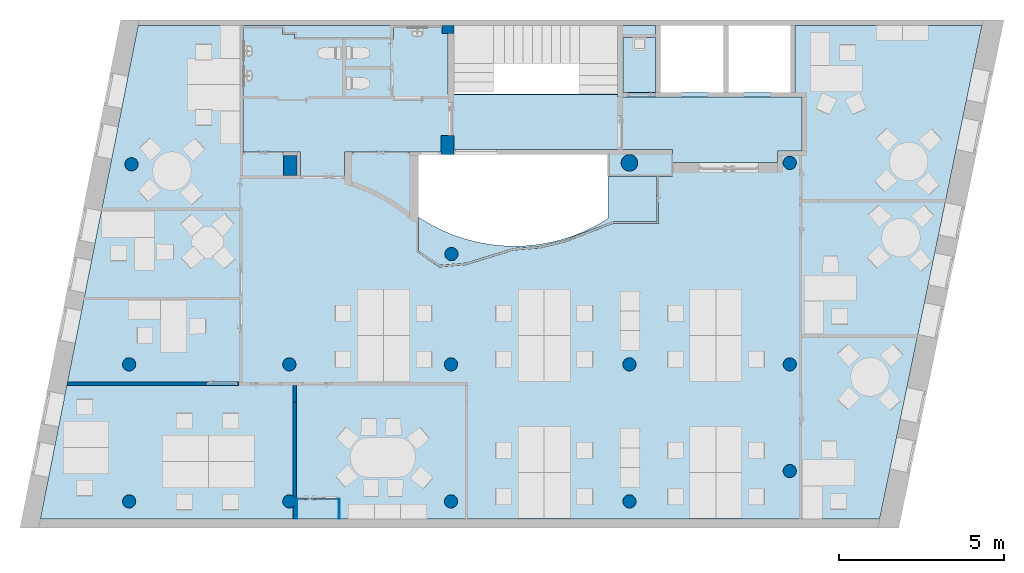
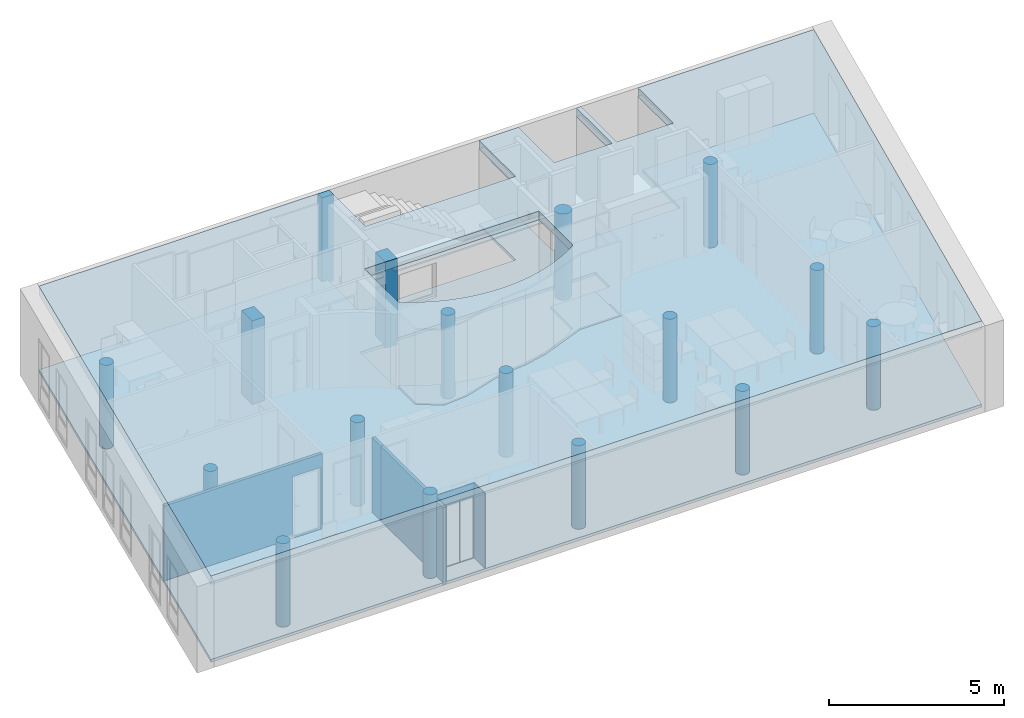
"""IFC4 building model written with IfcOpenShell, lengths in metres."""

from ifc_helpers import new_model, entity, si_unit, converted_unit, derived_unit, frame, frame_2d, origin, origin_with_axes, place, context, subcontext, project, spatial, polyline, rectangle, circle, outline, extrude, material, layer, layer_set, layer_usage, element, save


model = new_model("IFC4")

# Units and contexts
model_context = context("Model", 3, precision=1e-05, world=origin())
body_context = subcontext(model_context, "Body", "Model", "MODEL_VIEW")
ifc_project = project(units=[si_unit("LENGTHUNIT", "METRE"), si_unit("AREAUNIT", "SQUARE_METRE"), si_unit("VOLUMEUNIT", "CUBIC_METRE"), si_unit("MASSUNIT", "GRAM", prefix="KILO"), converted_unit("PLANEANGLEUNIT", "DEGREE", entity("IfcPlaneAngleMeasure", 0.0174532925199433), si_unit("PLANEANGLEUNIT", "RADIAN"), dimensions=[0, 0, 0, 0, 0, 0, 0]), derived_unit("THERMALTRANSMITTANCEUNIT", [(si_unit("POWERUNIT", "WATT"), 1), (si_unit("THERMODYNAMICTEMPERATUREUNIT", "KELVIN"), -1), (si_unit("LENGTHUNIT", "METRE"), -2)]), derived_unit("VOLUMETRICFLOWRATEUNIT", [(si_unit("LENGTHUNIT", "METRE"), 3), (converted_unit("TIMEUNIT", "hour", entity("IfcTimeMeasure", 3600.0), si_unit("TIMEUNIT", "SECOND"), dimensions=[0, 0, 1, 0, 0, 0, 0]), -1), (si_unit("LENGTHUNIT", "METRE"), -1)])], contexts=[model_context])

# Building, storeys
building_placement = place(None, origin())
building = spatial("IfcBuilding", under=ifc_project, at=building_placement, Name="HABITATGE PLURIFAMILIAR", CompositionType="ELEMENT")
storey_1_placement = place(building_placement, frame((0.0, 0.0, 12.27)))
storey_1 = spatial("IfcBuildingStorey", under=building, at=storey_1_placement, Name="PLANTA TERCERA", CompositionType="ELEMENT", Elevation=12.27)
storey_2_placement = place(storey_1_placement, frame((0.0, 0.0, 9.26)))
storey_2 = spatial("IfcBuildingStorey", under=storey_1, at=storey_2_placement, Name="NOU", CompositionType="PARTIAL")

# Columns
for number, where, name in (
    (1, (400.786984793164, 13.4494598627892, -9.36), "Pilar P3"),
    (2, (400.786984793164, 17.5994598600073, -9.36), "Pilar P3"),
    (3, (405.636984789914, 13.4494598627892, -9.36), "Pilar P3"),
    (4, (410.533725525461, 13.4494598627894, -9.36), "Pilar P3"),
):
    element("IfcColumn", number, at=place(storey_2_placement, frame(where)), inside=storey_2, Name=name, PredefinedType="COLUMN", context=body_context, shape_type="SweptSolid", body=[
        extrude(circle(Radius=0.200000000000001, at=frame_2d((0.200000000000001, 0.200000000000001), x_axis=(1.0, 0.0))), origin_with_axes(), (0.0, 0.0, 1.0), 3.01),
    ])
column_1_placement = place(storey_2_placement, frame((415.88698478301, 23.6494598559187, -9.36)))
element("IfcColumn", 5, at=column_1_placement, inside=storey_2, Name="Pilar P3", PredefinedType="COLUMN", context=body_context, shape_type="SweptSolid", body=[
    extrude(circle(Radius=0.25, at=frame_2d((0.25, 0.25), x_axis=(1.0, 0.0))), origin_with_axes(), (0.0, 0.0, 1.0), 3.01),
])
for number, where, name in (
    (6, (410.546984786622, 20.9394598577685, -9.36), "Pilar P3"),
    (7, (400.856984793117, 23.6594598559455, -9.36), "Pilar P3"),
):
    element("IfcColumn", number, at=place(storey_2_placement, frame(where)), inside=storey_2, Name=name, PredefinedType="COLUMN", context=body_context, shape_type="SweptSolid", body=[
        extrude(circle(Radius=0.200000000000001, at=frame_2d((0.200000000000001, 0.200000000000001), x_axis=(1.0, 0.0))), origin_with_axes(), (0.0, 0.0, 1.0), 3.01),
    ])
column_2_placement = place(storey_2_placement, frame((410.452985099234, 27.8194598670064, -9.36)))
element("IfcColumn", 8, at=column_2_placement, inside=storey_2, Name="Pilar P3", PredefinedType="COLUMN", context=body_context, shape_type="SweptSolid", body=[
    extrude(rectangle(XDim=0.37399968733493, YDim=0.248788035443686, at=frame_2d((0.186999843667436, 0.124394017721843), x_axis=(1.0, 0.0))), origin_with_axes(), (0.0, 0.0, 1.0), 3.01),
])
column_3_placement = place(storey_2_placement, frame((410.426984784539, 24.1594598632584, -9.36)))
element("IfcColumn", 9, at=column_3_placement, inside=storey_2, Name="Pilar P3", PredefinedType="COLUMN", context=body_context, shape_type="SweptSolid", body=[
    extrude(rectangle(XDim=0.400000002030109, YDim=0.569999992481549, at=frame_2d((0.200000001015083, 0.284999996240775), x_axis=(1.0, 0.0))), origin_with_axes(), (0.0, 0.0, 1.0), 3.01),
])
column_4_placement = place(storey_2_placement, frame((405.666984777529, 23.5194598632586, -9.36)))
element("IfcColumn", 10, at=column_4_placement, inside=storey_2, Name="Pilar P3", PredefinedType="COLUMN", context=body_context, shape_type="SweptSolid", body=[
    extrude(rectangle(XDim=0.410000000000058, YDim=0.609999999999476, at=frame_2d((0.205, 0.304999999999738), x_axis=(1.0, 0.0))), origin_with_axes(), (0.0, 0.0, 1.0), 3.01),
])
for number, where, name in (
    (11, (415.93698478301, 13.4494598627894, -9.36), "Pilar P3"),
    (12, (420.791984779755, 14.3694598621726, -9.36), "Pilar P3"),
    (13, (410.533725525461, 17.5994598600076, -9.36), "Pilar P3"),
    (14, (420.791984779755, 23.6994598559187, -9.36), "Pilar P3"),
    (15, (420.791984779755, 17.5994598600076, -9.36), "Pilar P3"),
    (16, (415.93698478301, 17.5994598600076, -9.36), "Pilar P3"),
    (17, (405.636984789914, 17.5994598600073, -9.36), "Pilar P3"),
):
    element("IfcColumn", number, at=place(storey_2_placement, frame(where)), inside=storey_2, Name=name, PredefinedType="COLUMN", context=body_context, shape_type="SweptSolid", body=[
        extrude(circle(Radius=0.200000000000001, at=frame_2d((0.200000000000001, 0.200000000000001), x_axis=(1.0, 0.0))), origin_with_axes(), (0.0, 0.0, 1.0), 3.01),
    ])

# Slabs
slab_1_placement = place(storey_2_placement, frame((398.295231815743, 13.1106121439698, -6.65)))
element("IfcSlab", 18, at=slab_1_placement, inside=storey_2, Name="Forjat P3", PredefinedType="FLOOR", context=body_context, shape_type="SweptSolid", body=[
    extrude(outline(polyline([(2.96349409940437, 14.9576357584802), (0.0, 0.0), (25.4182049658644, 0.0), (28.5180173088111, 14.9576357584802), (22.7117529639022, 14.9576357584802), (22.7117529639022, 12.9288477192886), (20.8417529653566, 12.9288477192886), (20.8417529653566, 14.9676357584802), (20.6917529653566, 14.9676357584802), (20.6917529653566, 12.9288477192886), (18.7817529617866, 12.9288477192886), (18.7817529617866, 14.9576357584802), (17.4817529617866, 14.9576357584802), (17.4817529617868, 12.8815425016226), (12.5317529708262, 12.878847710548), (12.5317529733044, 14.9578570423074), (2.96349409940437, 14.9576357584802)]), holes=[polyline([(17.1917529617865, 11.0488477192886), (17.1917529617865, 9.1032116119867), (17.1242303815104, 9.06041504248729), (17.0560619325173, 9.01865492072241), (16.9872635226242, 8.97794099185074), (16.917851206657, 8.93828275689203), (16.8478411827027, 8.89968947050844), (16.7772497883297, 8.86217013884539), (16.7060934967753, 8.82573351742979), (16.6343889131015, 8.79038810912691), (16.5621527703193, 8.7561421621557), (16.4894019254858, 8.72300366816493), (16.4161533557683, 8.69098036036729), (16.3424241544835, 8.66007971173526), (16.2682315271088, 8.6303089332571), (16.1935927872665, 8.60167497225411), (16.1185253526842, 8.57418451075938), (16.0430467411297, 8.54784396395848), (15.9671745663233, 8.52265947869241), (15.8909265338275, 8.49863693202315), (15.8143204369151, 8.4757819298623), (15.7373741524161, 8.45409980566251), (15.6601056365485, 8.43359561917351), (15.582532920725, 8.41427415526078), (15.504674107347, 8.39613992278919), (15.4265473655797, 8.37919715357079), (15.3481709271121, 8.3634498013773), (15.2695630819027, 8.34890154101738), (15.1907421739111, 8.33555576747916), (15.1117265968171, 8.3234155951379), (15.0325347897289, 8.31248385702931), (14.9531852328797, 8.30276310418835), (14.8736964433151, 8.29425560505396), (14.7940869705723, 8.28696334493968), (14.714375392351, 8.28088802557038), (14.6345803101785, 8.27603106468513), (14.5547203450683, 8.27239359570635), (14.4748141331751, 8.26997646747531), (14.3948803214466, 8.26878024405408), (14.3149375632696, 8.26880520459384), (14.23500451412, 8.27005134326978), (14.1550998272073, 8.27251836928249), (14.0752421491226, 8.27620570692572), (13.9954501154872, 8.28111249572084), (13.9157423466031, 8.28723759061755), (13.8361374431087, 8.29457956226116), (13.7566539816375, 8.3031366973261), (13.6773105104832, 8.31290699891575), (13.5981255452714, 8.32388818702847), (13.5191175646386, 8.33607769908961), (13.4403050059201, 8.34947269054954), (13.3617062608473, 8.36407003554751), (13.283339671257, 8.37986632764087), (13.2052235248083, 8.39685788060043), (13.1273760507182, 8.41504072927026), (13.0498154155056, 8.4344106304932), (12.9725597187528, 8.45496306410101), (12.8956269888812, 8.47669323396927), (12.8190351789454, 8.49959606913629), (12.7428021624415, 8.52366622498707), (12.6669457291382, 8.54889808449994), (12.5914835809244, 8.5752857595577), (12.516433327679, 8.60282309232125), (12.4418124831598, 8.63150365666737), (12.3676384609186, 8.6613207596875), (12.2939285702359, 8.69226744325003), (12.2207000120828, 8.72433648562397), (12.1479698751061, 8.75752040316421), (12.0757551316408, 8.79181145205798), (12.00407263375, 8.82720163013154), (11.932939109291, 8.86368267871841), (11.8623711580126, 8.9012460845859), (11.7923852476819, 8.93988308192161), (11.7229977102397, 8.97958465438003), (11.6542247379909, 9.02034153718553), (11.5860823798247, 9.06214421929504), (11.5185865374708, 9.10498294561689), (11.4517529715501, 9.14884771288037), (11.4517529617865, 11.0488477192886), (17.1917529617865, 11.0488477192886)])]), origin_with_axes(), (0.0, 0.0, 1.0), 0.3),
])
slab_2_placement = place(storey_2_placement, frame((404.436984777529, 23.4344598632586, -6.95)))
element("IfcSlab", 19, at=slab_2_placement, inside=storey_2, Name="Fals sostre P3", PredefinedType="FLOOR", context=body_context, shape_type="SweptSolid", body=[
    extrude(outline(polyline([(0.0, 4.54499999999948), (0.0, 0.794999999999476), (1.73999999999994, 0.794999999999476), (1.73999999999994, 0.0), (3.07000000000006, 0.0), (3.07000000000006, 0.794999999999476), (5.99000000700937, 0.794999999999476), (5.99000000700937, 1.29499999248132), (6.39000000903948, 1.29499999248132), (6.39000000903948, 0.874999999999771), (13.0099999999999, 0.874999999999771), (13.0099999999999, 0.475000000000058), (16.1813995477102, 0.475000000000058), (16.1813995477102, 0.824999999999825), (16.9199999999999, 0.824999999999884), (16.9199999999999, 2.45499999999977), (11.5100000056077, 2.45499999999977), (11.3394127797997, 2.45498274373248), (11.3399999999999, 2.53499999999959), (6.21000000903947, 2.53499999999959), (6.21000000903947, 4.38500000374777), (6.01600032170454, 4.38500000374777), (6.01600032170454, 4.56499999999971), (4.55000000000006, 4.56499999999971), (4.55000000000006, 4.21499999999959), (1.55999999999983, 4.21499999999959), (1.55999999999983, 4.37499999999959), (1.19999999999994, 4.37499999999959), (1.19999999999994, 4.54499999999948), (0.0, 4.54499999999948)])), origin_with_axes(), (0.0, 0.0, 1.0), 0.05),
    extrude(rectangle(XDim=0.979999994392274, YDim=1.65999999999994, at=frame_2d((0.489999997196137, 0.829999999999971), x_axis=(1.0, 0.0))), frame((11.5100000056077, 2.60499999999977, 0.0), z_axis=(0.0, 0.0, 1.0), x_axis=(1.0, 0.0, 0.0)), (0.0, 0.0, 1.0), 0.05),
])
slab_3_placement = place(storey_2_placement, frame((398.295231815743, 13.1106121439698, -9.36)))
element("IfcSlab", 20, at=slab_3_placement, inside=storey_2, Name="Paviment P3", PredefinedType="FLOOR", context=body_context, shape_type="SweptSolid", body=[
    extrude(outline(polyline([(0.0, 0.0), (25.4182049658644, 0.0), (28.5180173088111, 14.9576357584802), (22.8617529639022, 14.9576357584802), (22.8617529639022, 12.7788477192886), (18.6317529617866, 12.7788477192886), (18.6317529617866, 14.9576357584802), (17.4817529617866, 14.9576357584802), (17.4817529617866, 12.8815393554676), (12.3517529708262, 12.8788477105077), (12.3536132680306, 14.9576710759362), (2.96349409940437, 14.9576357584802), (0.0, 0.0)]), holes=[polyline([(19.1517529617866, 11.1988477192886), (19.1517529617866, 10.3788477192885), (18.6717529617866, 10.3788477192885), (18.6717529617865, 9.61368156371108), (18.7217529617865, 9.61368156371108), (18.7217529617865, 8.95884771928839), (17.3517529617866, 8.95884771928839), (15.8781909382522, 8.38884771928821), (15.1089705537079, 8.20884771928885), (14.3223575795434, 8.1491918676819), (12.9081705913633, 7.70884771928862), (12.0911638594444, 7.63884771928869), (11.4017529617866, 8.09901361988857), (11.4017529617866, 8.99901361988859), (11.3517529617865, 9.15186400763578), (11.3517529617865, 11.1188477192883), (12.1317529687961, 11.1188477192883), (12.1317529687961, 11.6188477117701), (12.5317529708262, 11.6188477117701), (12.5317529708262, 11.1988477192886), (19.1517529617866, 11.1988477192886)])]), origin_with_axes(), (0.0, 0.0, 1.0), 0.1),
])
slab_4_placement = place(storey_2_placement, frame((409.746984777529, 20.8007728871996, -9.36)))
element("IfcSlab", 21, at=slab_4_placement, inside=storey_2, Name="Paviment P3", PredefinedType="FLOOR", context=body_context, shape_type="SweptSolid", body=[
    extrude(outline(polyline([(0.660044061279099, 1.08436728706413), (0.323228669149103, 1.25954828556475), (0.00245939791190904, 1.4571717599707), (0.0, 1.30885287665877), (0.0, 0.435594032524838), (0.652597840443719, 0.0), (1.44673818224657, 0.0680408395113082), (2.86004820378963, 0.508111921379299), (3.64957753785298, 0.56824987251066), (4.41148500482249, 0.746538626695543), (5.14324609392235, 1.03532083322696), (5.88211983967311, 1.3153809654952), (5.89066652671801, 1.31868697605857), (7.22000000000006, 1.31868697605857), (7.22000000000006, 2.68868697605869), (5.74, 2.68868697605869), (5.74, 1.41305086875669), (5.41364587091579, 1.21907671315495), (5.07408766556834, 1.04927325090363), (4.72311247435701, 0.904534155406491), (4.36256747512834, 0.785621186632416), (3.99435021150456, 0.693160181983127), (3.62039860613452, 0.627637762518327), (3.24268076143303, 0.589398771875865), (2.86318460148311, 0.578644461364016), (2.48390740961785, 0.595431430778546), (2.10684531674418, 0.63967133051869), (1.73398279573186, 0.711131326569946), (1.36728221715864, 0.809435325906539), (1.00867352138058, 0.934065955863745), (0.660044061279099, 1.08436728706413)]), holes=[polyline([(0.818277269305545, 0.253948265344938), (0.813293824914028, 0.267640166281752), (0.812061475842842, 0.270282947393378), (0.81130676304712, 0.273099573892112), (0.806323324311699, 0.286791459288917), (0.803793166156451, 0.301140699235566), (0.803038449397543, 0.303957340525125), (0.802784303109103, 0.306862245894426), (0.800254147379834, 0.321211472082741), (0.800254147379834, 0.356162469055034), (0.80278430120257, 0.370511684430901), (0.803038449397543, 0.373416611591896), (0.803793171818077, 0.376233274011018), (0.806323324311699, 0.390582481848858), (0.811306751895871, 0.404274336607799), (0.812061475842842, 0.407091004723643), (0.813293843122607, 0.409733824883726), (0.818277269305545, 0.423425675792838), (0.825562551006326, 0.436044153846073), (0.826794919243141, 0.43868697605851), (0.82846748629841, 0.441075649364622), (0.835752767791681, 0.453694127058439), (0.845118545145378, 0.464855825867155), (0.846791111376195, 0.46724449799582), (0.848853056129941, 0.469306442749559), (0.858218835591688, 0.480468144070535), (0.869380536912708, 0.489833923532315), (0.871442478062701, 0.491895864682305), (0.873831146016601, 0.493568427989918), (0.884992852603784, 0.502934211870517), (0.897611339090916, 0.510219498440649), (0.9, 0.511892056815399), (0.90264280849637, 0.513124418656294), (0.915261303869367, 0.520409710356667), (0.928953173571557, 0.525393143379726), (0.931595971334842, 0.52662550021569), (0.934412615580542, 0.527380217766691), (0.948104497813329, 0.532363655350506), (0.962453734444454, 0.534893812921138), (0.965270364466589, 0.535648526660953), (0.968175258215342, 0.535902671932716), (0.982524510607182, 0.538432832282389), (1.01747550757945, 0.538432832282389), (1.03182477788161, 0.535902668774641), (1.03472963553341, 0.535648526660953), (1.0375462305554, 0.534893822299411), (1.05189552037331, 0.532363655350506), (1.06558745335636, 0.527380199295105), (1.06840402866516, 0.52662550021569), (1.0710467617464, 0.525393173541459), (1.08473871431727, 0.520409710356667), (1.09735728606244, 0.513124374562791), (1.1, 0.511892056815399), (1.10238857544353, 0.510219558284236), (1.11500716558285, 0.502934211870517), (1.12616896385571, 0.493568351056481), (1.1285575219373, 0.491895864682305), (1.1306193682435, 0.489834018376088), (1.14178118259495, 0.480468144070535), (1.15114705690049, 0.469306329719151), (1.15320888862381, 0.46724449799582), (1.15488136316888, 0.4648559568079), (1.16424725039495, 0.453694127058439), (1.17153261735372, 0.441075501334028), (1.17320508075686, 0.43868697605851), (1.1744373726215, 0.436044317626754), (1.18172274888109, 0.423425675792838), (1.18670623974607, 0.409733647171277), (1.18793852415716, 0.407091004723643), (1.18869319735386, 0.404274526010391), (1.19367669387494, 0.390582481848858), (1.19620688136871, 0.376233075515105), (1.19696155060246, 0.373416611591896), (1.19721568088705, 0.370511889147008), (1.1997458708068, 0.356162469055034), (1.1997458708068, 0.321211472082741), (1.19721567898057, 0.306862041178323), (1.19696155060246, 0.303957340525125), (1.19620688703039, 0.301140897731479), (1.19367669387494, 0.286791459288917), (1.18869318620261, 0.273099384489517), (1.18793852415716, 0.270282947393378), (1.18670625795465, 0.267640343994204), (1.18172274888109, 0.253948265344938), (1.17443734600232, 0.241329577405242), (1.17320508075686, 0.23868697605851), (1.17153265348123, 0.236298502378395), (1.16424725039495, 0.223679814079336), (1.15488131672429, 0.212517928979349), (1.15320888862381, 0.210129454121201), (1.1511471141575, 0.20806767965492), (1.14178118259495, 0.19690579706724), (1.13061930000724, 0.187539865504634), (1.1285575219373, 0.185478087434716), (1.12616904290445, 0.183805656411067), (1.11500716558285, 0.174439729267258), (1.10238848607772, 0.167154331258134), (1.1, 0.165481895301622), (1.09735738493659, 0.164249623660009), (1.08473871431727, 0.156964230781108), (1.07104665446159, 0.15198072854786), (1.06840402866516, 0.150748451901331), (1.06558756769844, 0.149993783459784), (1.05189552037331, 0.14501028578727), (1.03754611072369, 0.142480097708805), (1.03472963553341, 0.141725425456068), (1.03182490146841, 0.141471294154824), (1.01747550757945, 0.138941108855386), (0.982524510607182, 0.138941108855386), (0.968175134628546, 0.141471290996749), (0.965270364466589, 0.141725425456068), (0.962453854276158, 0.142480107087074), (0.948104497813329, 0.14501028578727), (0.934412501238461, 0.149993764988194), (0.931595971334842, 0.150748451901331), (0.928953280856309, 0.151980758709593), (0.915261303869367, 0.156964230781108), (0.902642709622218, 0.164249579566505), (0.9, 0.165481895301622), (0.897611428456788, 0.167154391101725), (0.884992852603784, 0.174439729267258), (0.873831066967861, 0.18380557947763), (0.871442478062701, 0.185478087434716), (0.869380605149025, 0.187539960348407), (0.858218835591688, 0.19690579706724), (0.84885299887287, 0.208067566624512), (0.846791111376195, 0.210129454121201), (0.845118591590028, 0.212518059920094), (0.835752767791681, 0.223679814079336), (0.828467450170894, 0.2362983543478), (0.826794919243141, 0.23868697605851), (0.825562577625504, 0.24132974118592), (0.818277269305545, 0.253948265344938)])]), origin_with_axes(), (0.0, 0.0, 1.0), 0.1),
])

# Wall, opening
ifc_material_1 = material()
ifc_layer_1 = layer(ifc_material_1, 0.1)
ifc_layer_set_1 = layer_set([ifc_layer_1])
ifc_layer_usage_1 = layer_usage(ifc_layer_set_1, "AXIS2", "POSITIVE", 0.0)
wall_1_placement = place(storey_2_placement, frame((399.098756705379, 17.1662411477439, -9.36)))
wall_1 = element("IfcWall", 22, at=wall_1_placement, inside=storey_2, material=ifc_layer_usage_1, Name="Evans P3", context=body_context, shape_type="SweptSolid", body=[
    extrude(outline(polyline([(0.0, 0.0), (5.21822807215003, 0.0), (5.21822807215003, 0.1), (0.019812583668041, 0.1), (0.0, 0.0)])), origin_with_axes(), (0.0, 0.0, 1.0), 2.71),
])
opening_1_placement = place(wall_1_placement, frame((5.16822807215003, 0.1, 0.1), z_axis=(0.0, -1.0, 0.0), x_axis=(0.0, 0.0, 1.0)))
element("IfcOpeningElement", 23, at=opening_1_placement, cuts=wall_1, Name="Vano porta P3", ObjectType="Opening", context=body_context, shape_type="SweptSolid", body=[
    extrude(outline(polyline([(2.15, 0.94), (2.15, 0.0), (0.0, 0.0), (0.0, 0.94), (2.15, 0.94)])), origin_with_axes(), (0.0, 0.0, 1.0), 0.1),
])

# Wall, openings
ifc_material_2 = material()
ifc_layer_2 = layer(ifc_material_2, 0.03)
ifc_layer_set_2 = layer_set([ifc_layer_2])
ifc_layer_usage_2 = layer_usage(ifc_layer_set_2, "AXIS2", "POSITIVE", 0.0)
wall_2_placement = place(storey_2_placement, frame((407.361610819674, 13.7631365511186, -9.31), z_axis=(0.0, 0.0, 1.0), x_axis=(-1.0, 0.0, 0.0)))
wall_2 = element("IfcWall", 24, at=wall_2_placement, inside=storey_2, material=ifc_layer_usage_2, Name="Evans PA", context=body_context, shape_type="SweptSolid", body=[
    extrude(rectangle(XDim=1.31229787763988, YDim=0.03, at=frame_2d((0.656148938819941, 0.015), x_axis=(1.0, 0.0))), origin_with_axes(), (0.0, 0.0, 1.0), 2.66),
])
opening_2_placement = place(wall_2_placement, frame((0.487834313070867, 0.0, 0.05), z_axis=(0.0, 1.0, 0.0), x_axis=(0.0, 0.0, 1.0)))
element("IfcOpeningElement", 25, at=opening_2_placement, cuts=wall_2, Name="Vano de puerta PA", ObjectType="Opening", context=body_context, shape_type="SweptSolid", body=[
    extrude(outline(polyline([(2.15, 0.822674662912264), (2.15, 0.0), (0.0, 0.0), (0.0, 0.822674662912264), (2.15, 0.822674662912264)])), origin_with_axes(), (0.0, 0.0, 1.0), 0.03),
])
opening_3_placement = place(wall_2_placement, frame((0.0452878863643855, 0.0, 0.05), z_axis=(0.0, 1.0, 0.0), x_axis=(0.0, 0.0, 1.0)))
element("IfcOpeningElement", 26, at=opening_3_placement, cuts=wall_2, Name="Vano de puerta PA", ObjectType="Opening", context=body_context, shape_type="SweptSolid", body=[
    extrude(outline(polyline([(2.15, 0.441930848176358), (2.15, 0.0), (0.0, 0.0), (0.0, 0.441930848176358), (2.15, 0.441930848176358)])), origin_with_axes(), (0.0, 0.0, 1.0), 0.03),
])

# Walls
ifc_material_3 = material()
ifc_layer_3 = layer(ifc_material_3, 0.025)
ifc_layer_set_3 = layer_set([ifc_layer_3])
ifc_layer_usage_3 = layer_usage(ifc_layer_set_3, "AXIS2", "POSITIVE", 0.0)
wall_3_placement = place(storey_2_placement, frame((406.074312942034, 13.1206121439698, -9.31), z_axis=(0.0, 0.0, 1.0), x_axis=(0.0, 1.0, 0.0)))
element("IfcWall", 27, at=wall_3_placement, inside=storey_2, material=ifc_layer_usage_3, Name="Evans PA", context=body_context, shape_type="SweptSolid", body=[
    extrude(rectangle(XDim=0.612524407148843, YDim=0.025, at=frame_2d((0.306262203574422, 0.0125), x_axis=(1.0, 0.0))), origin_with_axes(), (0.0, 0.0, 1.0), 2.66),
])
ifc_material_4 = material()
ifc_layer_4 = layer(ifc_material_4, 0.025)
ifc_layer_set_4 = layer_set([ifc_layer_4])
ifc_layer_usage_4 = layer_usage(ifc_layer_set_4, "AXIS2", "POSITIVE", 0.0)
wall_4_placement = place(storey_2_placement, frame((407.361610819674, 13.1206121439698, -9.31), z_axis=(0.0, 0.0, 1.0), x_axis=(0.0, 1.0, 0.0)))
element("IfcWall", 28, at=wall_4_placement, inside=storey_2, material=ifc_layer_usage_4, Name="Evans PA", context=body_context, shape_type="SweptSolid", body=[
    extrude(rectangle(XDim=0.612524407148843, YDim=0.025, at=frame_2d((0.306262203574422, 0.0125), x_axis=(1.0, 0.0))), origin_with_axes(), (0.0, 0.0, 1.0), 2.66),
])
ifc_material_5 = material()
ifc_layer_5 = layer(ifc_material_5, 0.1)
ifc_layer_set_5 = layer_set([ifc_layer_5])
ifc_layer_usage_5 = layer_usage(ifc_layer_set_5, "AXIS2", "POSITIVE", 0.0)
wall_5_placement = place(storey_2_placement, frame((405.949312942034, 16.6662411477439, -9.36), z_axis=(0.0, 0.0, 1.0), x_axis=(0.0, -1.0, 0.0)))
element("IfcWall", 29, at=wall_5_placement, inside=storey_2, material=ifc_layer_usage_5, Name="Evans P3", context=body_context, shape_type="SweptSolid", body=[
    extrude(rectangle(XDim=3.55562900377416, YDim=0.1, at=frame_2d((1.77781450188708, 0.05), x_axis=(1.0, 0.0))), origin_with_axes(), (0.0, 0.0, 1.0), 2.71),
])
ifc_material_6 = material()
ifc_layer_6 = layer(ifc_material_6, 0.1)
ifc_layer_set_6 = layer_set([ifc_layer_6])
ifc_layer_usage_6 = layer_usage(ifc_layer_set_6, "AXIS2", "POSITIVE", 0.0)
wall_6_placement = place(storey_2_placement, frame((405.949312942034, 17.1662411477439, -9.36), z_axis=(0.0, 0.0, 1.0), x_axis=(0.0, -1.0, 0.0)))
element("IfcWall", 30, at=wall_6_placement, inside=storey_2, material=ifc_layer_usage_6, Name="Evans P3", context=body_context, shape_type="SweptSolid", body=[
    extrude(rectangle(XDim=0.5, YDim=0.1, at=frame_2d((0.25, 0.05), x_axis=(1.0, 0.0))), origin_with_axes(), (0.0, 0.0, 1.0), 2.71),
])

save(model, "model.ifc")
